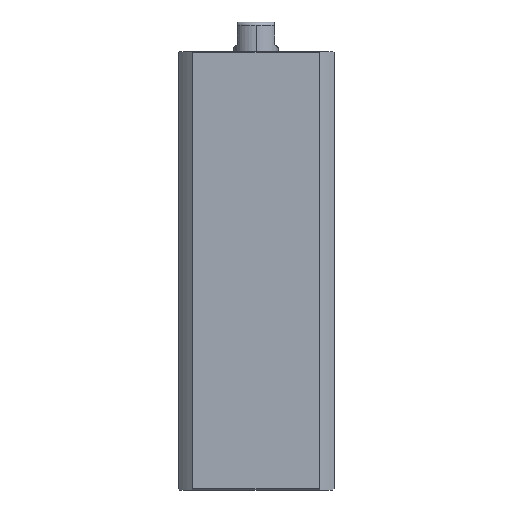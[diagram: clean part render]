
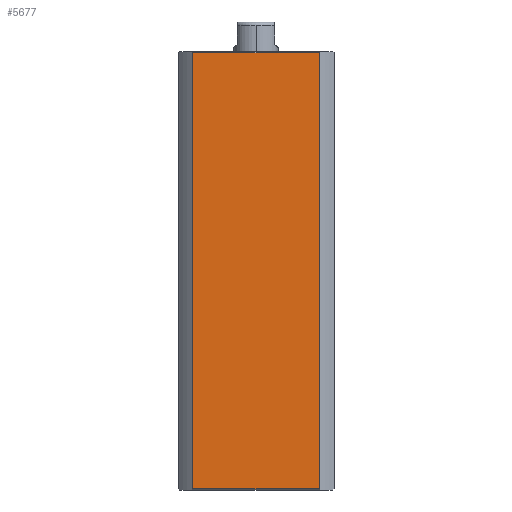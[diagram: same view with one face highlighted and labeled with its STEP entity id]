
A CAD part, left-side view. The second image highlights one B-rep face of the part: STEP entity #5677.
In plain terms, the highlighted planar face has unit normal (-1, 0, 0).
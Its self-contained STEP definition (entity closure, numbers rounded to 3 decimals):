
#27 = PLANE ( 'NONE',  #11363 ) ;
#494 = ORIENTED_EDGE ( 'NONE', *, *, #8244, .F. ) ;
#559 = VECTOR ( 'NONE', #9488, 1000. ) ;
#1122 = VECTOR ( 'NONE', #2925, 1000. ) ;
#1675 = LINE ( 'NONE', #8897, #11541 ) ;
#2154 = VERTEX_POINT ( 'NONE', #8094 ) ;
#2925 = DIRECTION ( 'NONE',  ( 0., 0., 1. ) ) ;
#3316 = ORIENTED_EDGE ( 'NONE', *, *, #8133, .T. ) ;
#3589 = ORIENTED_EDGE ( 'NONE', *, *, #9122, .F. ) ;
#3676 = DIRECTION ( 'NONE',  ( 0., 1., 0. ) ) ;
#4485 = CARTESIAN_POINT ( 'NONE',  ( -21., 21., 117.7 ) ) ;
#4522 = VERTEX_POINT ( 'NONE', #4872 ) ;
#4872 = CARTESIAN_POINT ( 'NONE',  ( -21., 16.971, 0.3 ) ) ;
#5084 = LINE ( 'NONE', #11246, #559 ) ;
#5677 = ADVANCED_FACE ( 'NONE', ( #6447 ), #27, .F. ) ;
#6288 = DIRECTION ( 'NONE',  ( 0., 1., 0. ) ) ;
#6296 = CARTESIAN_POINT ( 'NONE',  ( -21., 16.971, 117.7 ) ) ;
#6447 = FACE_OUTER_BOUND ( 'NONE', #8785, .T. ) ;
#6697 = VERTEX_POINT ( 'NONE', #6296 ) ;
#7244 = CARTESIAN_POINT ( 'NONE',  ( -21., 21., 118. ) ) ;
#7783 = VERTEX_POINT ( 'NONE', #9405 ) ;
#8094 = CARTESIAN_POINT ( 'NONE',  ( -21., -16.971, 117.7 ) ) ;
#8133 = EDGE_CURVE ( 'NONE', #4522, #7783, #1675, .T. ) ;
#8244 = EDGE_CURVE ( 'NONE', #4522, #6697, #10700, .T. ) ;
#8733 = LINE ( 'NONE', #4485, #10830 ) ;
#8785 = EDGE_LOOP ( 'NONE', ( #494, #3316, #3589, #9489 ) ) ;
#8897 = CARTESIAN_POINT ( 'NONE',  ( -21., 21., 0.3 ) ) ;
#9063 = DIRECTION ( 'NONE',  ( 1., 0., 0. ) ) ;
#9122 = EDGE_CURVE ( 'NONE', #2154, #7783, #5084, .T. ) ;
#9239 = CARTESIAN_POINT ( 'NONE',  ( -21., 16.971, -32. ) ) ;
#9360 = EDGE_CURVE ( 'NONE', #2154, #6697, #8733, .T. ) ;
#9405 = CARTESIAN_POINT ( 'NONE',  ( -21., -16.971, 0.3 ) ) ;
#9488 = DIRECTION ( 'NONE',  ( 0., 0., -1. ) ) ;
#9489 = ORIENTED_EDGE ( 'NONE', *, *, #9360, .T. ) ;
#10700 = LINE ( 'NONE', #9239, #1122 ) ;
#10830 = VECTOR ( 'NONE', #6288, 1000. ) ;
#11246 = CARTESIAN_POINT ( 'NONE',  ( -21., -16.971, -32. ) ) ;
#11363 = AXIS2_PLACEMENT_3D ( 'NONE', #7244, #9063, #3676 ) ;
#11541 = VECTOR ( 'NONE', #11557, 1000. ) ;
#11557 = DIRECTION ( 'NONE',  ( 0., -1., 0. ) ) ;
